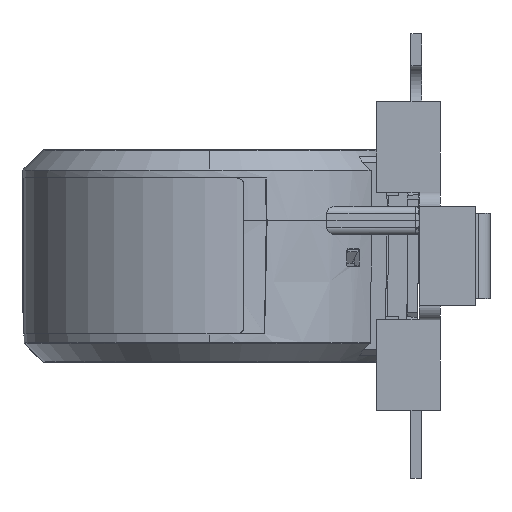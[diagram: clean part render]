
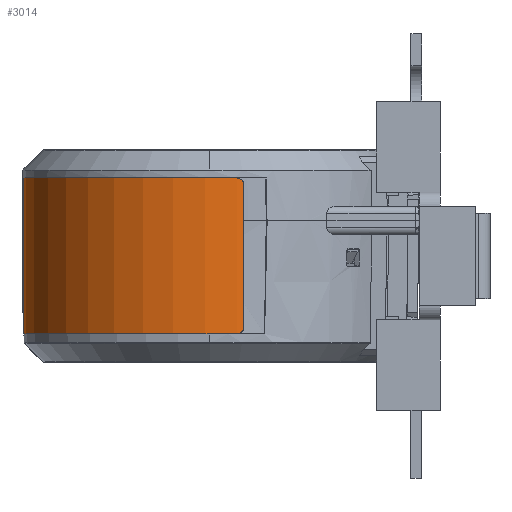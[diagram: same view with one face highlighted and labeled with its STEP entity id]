
A CAD part, left-side view. The second image highlights one B-rep face of the part: STEP entity #3014.
In plain terms, the highlighted cylindrical face has radius 26.3 mm (diameter 52.6 mm), a partial arc.
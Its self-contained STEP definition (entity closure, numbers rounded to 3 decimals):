
#1093 = CARTESIAN_POINT ( 'NONE',  ( -10.023, 11., -30.006 ) ) ;
#1608 = CARTESIAN_POINT ( 'NONE',  ( -9.882, -10.504, -30.869 ) ) ;
#3014 = ADVANCED_FACE ( 'NONE', ( #18634 ), #26811, .T. ) ;
#3335 = CARTESIAN_POINT ( 'NONE',  ( -9.86, -10., -30.993 ) ) ;
#4155 = EDGE_CURVE ( 'NONE', #48424, #9604, #15157, .T. ) ;
#5209 = AXIS2_PLACEMENT_3D ( 'NONE', #14335, #14272, #14514 ) ;
#5262 = CARTESIAN_POINT ( 'NONE',  ( -10.023, -11., -30.006 ) ) ;
#5670 = CARTESIAN_POINT ( 'NONE',  ( -9.943, -10.891, -30.523 ) ) ;
#6649 = VECTOR ( 'NONE', #39685, 1000. ) ;
#7235 = EDGE_CURVE ( 'NONE', #27082, #48424, #16365, .T. ) ;
#7934 = LINE ( 'NONE', #9736, #10439 ) ;
#8535 = CIRCLE ( 'NONE', #15908, 26.3 ) ;
#9162 = EDGE_CURVE ( 'NONE', #32025, #25526, #8535, .T. ) ;
#9604 = VERTEX_POINT ( 'NONE', #42845 ) ;
#9714 = CARTESIAN_POINT ( 'NONE',  ( -10.023, -11., -30.006 ) ) ;
#9736 = CARTESIAN_POINT ( 'NONE',  ( -9.86, -11., -30.993 ) ) ;
#10439 = VECTOR ( 'NONE', #37948, 1000. ) ;
#11112 = EDGE_CURVE ( 'NONE', #26770, #25526, #13014, .T. ) ;
#11147 = EDGE_LOOP ( 'NONE', ( #43469, #46409, #29554, #46954, #15466, #42600 ) ) ;
#13014 = B_SPLINE_CURVE_WITH_KNOTS ( 'NONE', 3,
 ( #45284, #25789, #49736, #1608, #29839, #5670, #33877, #9714 ),
 .UNSPECIFIED., .F., .F.,
 ( 4, 2, 2, 4 ),
 ( 0., 0., 0.001, 0.002 ),
 .UNSPECIFIED. ) ;
#13872 = CARTESIAN_POINT ( 'NONE',  ( 16., 11., 0.1 ) ) ;
#14272 = DIRECTION ( 'NONE',  ( 0., 1., 0. ) ) ;
#14335 = CARTESIAN_POINT ( 'NONE',  ( 16., -11., -26.2 ) ) ;
#14514 = DIRECTION ( 'NONE',  ( 0., 0., 1. ) ) ;
#14726 = DIRECTION ( 'NONE',  ( 0., -1., 0. ) ) ;
#15157 = B_SPLINE_CURVE_WITH_KNOTS ( 'NONE', 3,
 ( #23523, #23633, #23452, #23336, #23274, #23157, #22976, #22812 ),
 .UNSPECIFIED., .F., .F.,
 ( 4, 2, 2, 4 ),
 ( 0., 0., 0.001, 0.002 ),
 .UNSPECIFIED. ) ;
#15466 = ORIENTED_EDGE ( 'NONE', *, *, #7235, .T. ) ;
#15908 = AXIS2_PLACEMENT_3D ( 'NONE', #38862, #14726, #42902 ) ;
#16365 = CIRCLE ( 'NONE', #40795, 26.3 ) ;
#18634 = FACE_OUTER_BOUND ( 'NONE', #11147, .T. ) ;
#18733 = DIRECTION ( 'NONE',  ( 0., -1., 0. ) ) ;
#22812 = CARTESIAN_POINT ( 'NONE',  ( -9.86, 10., -30.993 ) ) ;
#22976 = CARTESIAN_POINT ( 'NONE',  ( -9.86, 10.264, -30.993 ) ) ;
#23157 = CARTESIAN_POINT ( 'NONE',  ( -9.88, 10.523, -30.886 ) ) ;
#23274 = CARTESIAN_POINT ( 'NONE',  ( -9.927, 10.8, -30.613 ) ) ;
#23336 = CARTESIAN_POINT ( 'NONE',  ( -9.946, 10.874, -30.504 ) ) ;
#23452 = CARTESIAN_POINT ( 'NONE',  ( -9.984, 10.974, -30.265 ) ) ;
#23523 = CARTESIAN_POINT ( 'NONE',  ( -10.023, 11., -30.006 ) ) ;
#23633 = CARTESIAN_POINT ( 'NONE',  ( -10.004, 11., -30.137 ) ) ;
#25526 = VERTEX_POINT ( 'NONE', #5262 ) ;
#25789 = CARTESIAN_POINT ( 'NONE',  ( -9.86, -10.132, -30.993 ) ) ;
#26770 = VERTEX_POINT ( 'NONE', #3335 ) ;
#26811 = CYLINDRICAL_SURFACE ( 'NONE', #5209, 26.3 ) ;
#27082 = VERTEX_POINT ( 'NONE', #13872 ) ;
#27510 = CARTESIAN_POINT ( 'NONE',  ( 16., -11., 0.1 ) ) ;
#29554 = ORIENTED_EDGE ( 'NONE', *, *, #9162, .F. ) ;
#29839 = CARTESIAN_POINT ( 'NONE',  ( -9.896, -10.615, -30.796 ) ) ;
#32025 = VERTEX_POINT ( 'NONE', #33682 ) ;
#33682 = CARTESIAN_POINT ( 'NONE',  ( 16., -11., 0.1 ) ) ;
#33877 = CARTESIAN_POINT ( 'NONE',  ( -9.985, -11., -30.267 ) ) ;
#36781 = EDGE_CURVE ( 'NONE', #26770, #9604, #7934, .T. ) ;
#37948 = DIRECTION ( 'NONE',  ( 0., 1., 0. ) ) ;
#38862 = CARTESIAN_POINT ( 'NONE',  ( 16., -11., -26.2 ) ) ;
#39685 = DIRECTION ( 'NONE',  ( 0., 1., 0. ) ) ;
#40099 = LINE ( 'NONE', #27510, #6649 ) ;
#40795 = AXIS2_PLACEMENT_3D ( 'NONE', #42827, #18733, #46783 ) ;
#42600 = ORIENTED_EDGE ( 'NONE', *, *, #4155, .T. ) ;
#42827 = CARTESIAN_POINT ( 'NONE',  ( 16., 11., -26.2 ) ) ;
#42845 = CARTESIAN_POINT ( 'NONE',  ( -9.86, 10., -30.993 ) ) ;
#42902 = DIRECTION ( 'NONE',  ( 0., 0., 1. ) ) ;
#43469 = ORIENTED_EDGE ( 'NONE', *, *, #36781, .F. ) ;
#45284 = CARTESIAN_POINT ( 'NONE',  ( -9.86, -10., -30.993 ) ) ;
#46193 = EDGE_CURVE ( 'NONE', #32025, #27082, #40099, .T. ) ;
#46409 = ORIENTED_EDGE ( 'NONE', *, *, #11112, .T. ) ;
#46783 = DIRECTION ( 'NONE',  ( 0., 0., 1. ) ) ;
#46954 = ORIENTED_EDGE ( 'NONE', *, *, #46193, .T. ) ;
#48424 = VERTEX_POINT ( 'NONE', #1093 ) ;
#49736 = CARTESIAN_POINT ( 'NONE',  ( -9.864, -10.262, -30.967 ) ) ;
